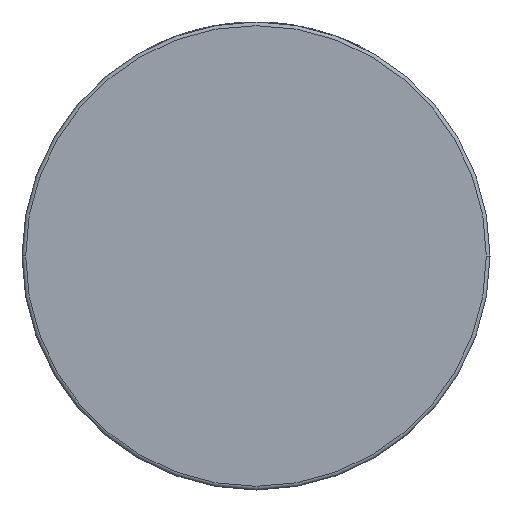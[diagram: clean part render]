
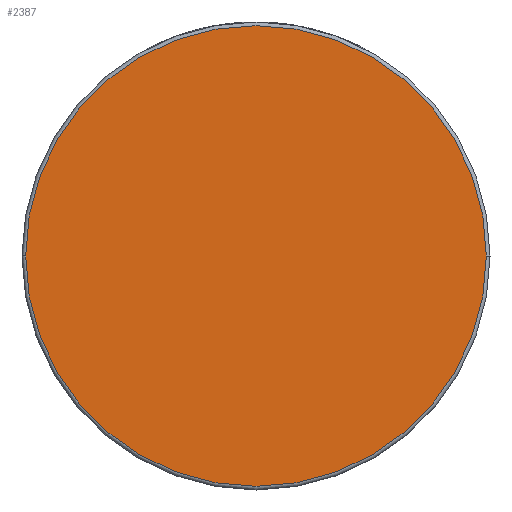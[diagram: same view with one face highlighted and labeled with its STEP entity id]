
A CAD part, front view. The second image highlights one B-rep face of the part: STEP entity #2387.
In plain terms, the highlighted planar face has unit normal (0, -1, 0).
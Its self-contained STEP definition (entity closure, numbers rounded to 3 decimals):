
#70 = DIRECTION ( 'NONE',  ( 0., -1., 0. ) ) ;
#399 = EDGE_CURVE ( 'NONE', #4472, #1791, #4229, .T. ) ;
#425 = DIRECTION ( 'NONE',  ( 1., 0., 0. ) ) ;
#441 = FACE_OUTER_BOUND ( 'NONE', #4281, .T. ) ;
#793 = CARTESIAN_POINT ( 'NONE',  ( 63., -33., 0. ) ) ;
#988 = CARTESIAN_POINT ( 'NONE',  ( 0., -33., 0. ) ) ;
#1010 = DIRECTION ( 'NONE',  ( 1., 0., 0. ) ) ;
#1213 = ORIENTED_EDGE ( 'NONE', *, *, #399, .T. ) ;
#1674 = AXIS2_PLACEMENT_3D ( 'NONE', #988, #2811, #1010 ) ;
#1786 = PLANE ( 'NONE',  #2886 ) ;
#1791 = VERTEX_POINT ( 'NONE', #1834 ) ;
#1834 = CARTESIAN_POINT ( 'NONE',  ( -63., -33., 0. ) ) ;
#1845 = AXIS2_PLACEMENT_3D ( 'NONE', #4180, #3533, #425 ) ;
#1924 = CIRCLE ( 'NONE', #1845, 63. ) ;
#2184 = ORIENTED_EDGE ( 'NONE', *, *, #3386, .T. ) ;
#2387 = ADVANCED_FACE ( 'NONE', ( #441 ), #1786, .T. ) ;
#2811 = DIRECTION ( 'NONE',  ( 0., -1., 0. ) ) ;
#2839 = DIRECTION ( 'NONE',  ( 1., 0., 0. ) ) ;
#2886 = AXIS2_PLACEMENT_3D ( 'NONE', #3545, #70, #2839 ) ;
#3386 = EDGE_CURVE ( 'NONE', #1791, #4472, #1924, .T. ) ;
#3533 = DIRECTION ( 'NONE',  ( 0., -1., 0. ) ) ;
#3545 = CARTESIAN_POINT ( 'NONE',  ( 64., -33., 0. ) ) ;
#4180 = CARTESIAN_POINT ( 'NONE',  ( 0., -33., 0. ) ) ;
#4229 = CIRCLE ( 'NONE', #1674, 63. ) ;
#4281 = EDGE_LOOP ( 'NONE', ( #1213, #2184 ) ) ;
#4472 = VERTEX_POINT ( 'NONE', #793 ) ;
